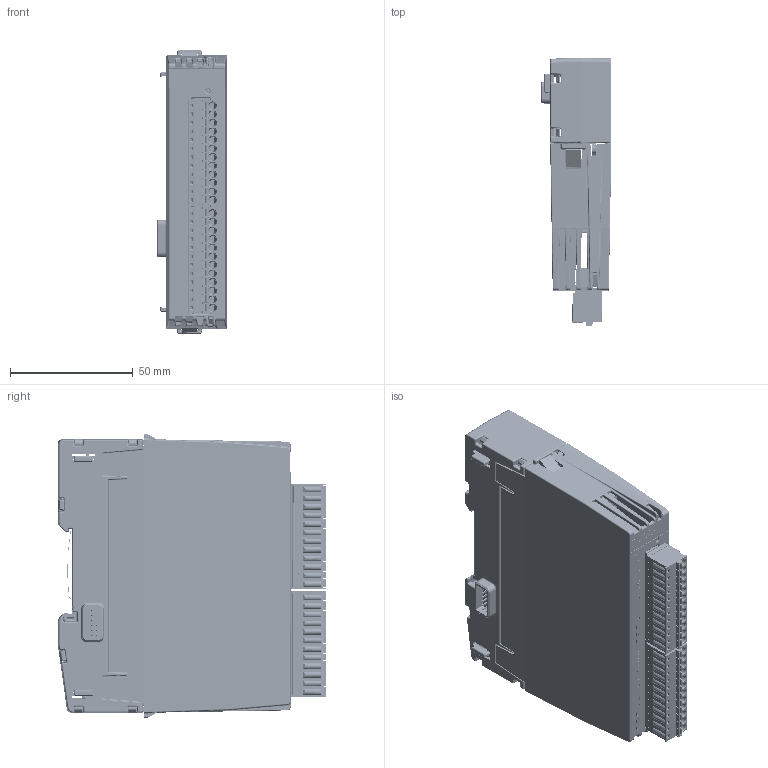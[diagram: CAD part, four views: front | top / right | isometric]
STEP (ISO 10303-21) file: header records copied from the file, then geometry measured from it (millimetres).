
FILE_DESCRIPTION(/* description */ (''),/* implementation_level */ '2;1');
FILE_NAME(/* name */ 'C:\Users\Public\Documents\Autodesk\Inventor 2023\DO08R_Simplified+BackBB21C.stp',/* time_stamp */ '2024-10-16T19:55:14+02:00',/* author */ ('shoma'),/* organization */ (''),/* preprocessor_version */ 'ST-DEVELOPER v19',/* originating_system */ 'Autodesk Inventor 2023',/* authorisation */ '');
FILE_SCHEMA (('AUTOMOTIVE_DESIGN { 1 0 10303 214 3 1 1 }'));
Products named in the file (1): DO08R_Simplified+BackBB21C
Bounding box: 28.9 x 109.39 x 115.5 mm (x, y, z)
Volume: 155201.1 mm3; surface area: 94769.9 mm2
Topology: 8 solids, 58 shells, 9465 faces, 25085 edges, 15796 vertices
Faces by surface type: plane 5732, cylinder 2404, bspline 893, cone 233, sphere 162, torus 41
Full cylindrical faces by diameter (mm): 0.296 x2, 0.3 x152, 0.457 x2, 0.7 x36, 0.8 x6, 0.85 x24, 0.9 x8, 1.17 x24, 1.2 x24, 1.25 x24, 1.3 x24, 1.4 x4, 1.6 x26, 2.35 x2, 2.5 x1, 3 x1, 3.1 x24, 3.25 x2
Entity records: 327009 total; most frequent: CARTESIAN_POINT 84135, ORIENTED_EDGE 49864, DIRECTION 46142, EDGE_CURVE 24932, LINE 17656, VECTOR 17656, VERTEX_POINT 15796, AXIS2_PLACEMENT_3D 14243
